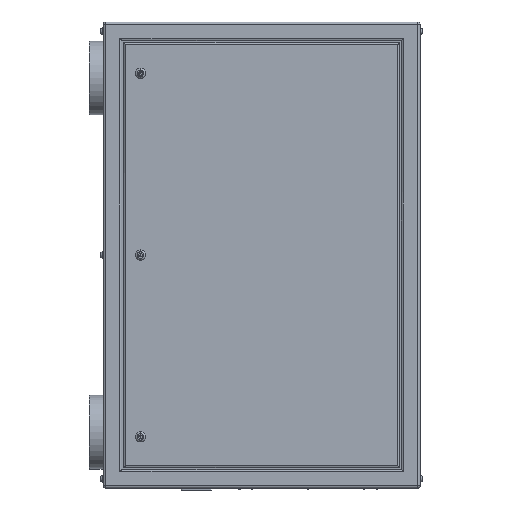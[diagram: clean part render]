
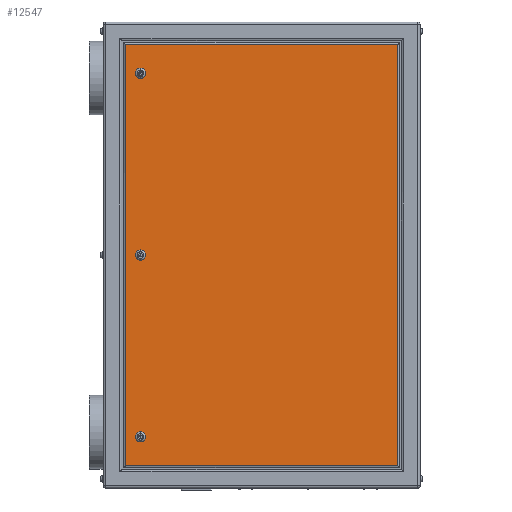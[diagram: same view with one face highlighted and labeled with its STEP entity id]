
A CAD part, left-side view. The second image highlights one B-rep face of the part: STEP entity #12547.
In plain terms, the highlighted planar face has unit normal (-1, 0, 0).
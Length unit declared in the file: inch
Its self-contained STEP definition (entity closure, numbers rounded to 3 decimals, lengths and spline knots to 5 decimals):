
#62 = LINE ( 'NONE', #7802, #7834 ) ;
#312 = VERTEX_POINT ( 'NONE', #8513 ) ;
#536 = FACE_OUTER_BOUND ( 'NONE', #1737, .T. ) ;
#588 = VERTEX_POINT ( 'NONE', #9516 ) ;
#682 = CARTESIAN_POINT ( 'NONE',  ( -11., -14.6, -25. ) ) ;
#845 = DIRECTION ( 'NONE',  ( 1., 0., 0. ) ) ;
#1060 = DIRECTION ( 'NONE',  ( 0., -1., 0. ) ) ;
#1482 = EDGE_LOOP ( 'NONE', ( #8306, #14689 ) ) ;
#1547 = CARTESIAN_POINT ( 'NONE',  ( -11., 13., 19.5 ) ) ;
#1733 = FACE_BOUND ( 'NONE', #1482, .T. ) ;
#1737 = EDGE_LOOP ( 'NONE', ( #7485, #11256, #9665, #10855 ) ) ;
#1796 = DIRECTION ( 'NONE',  ( 0., 0., -1. ) ) ;
#1831 = DIRECTION ( 'NONE',  ( 1., 0., 0. ) ) ;
#2063 = AXIS2_PLACEMENT_3D ( 'NONE', #14708, #1831, #5832 ) ;
#2096 = CARTESIAN_POINT ( 'NONE',  ( -11., 13., -0.55 ) ) ;
#2139 = EDGE_CURVE ( 'NONE', #312, #3194, #14023, .T. ) ;
#2172 = CARTESIAN_POINT ( 'NONE',  ( -11., 13., -19.5 ) ) ;
#2325 = EDGE_CURVE ( 'NONE', #8875, #16209, #7468, .T. ) ;
#2356 = LINE ( 'NONE', #13040, #14224 ) ;
#2521 = DIRECTION ( 'NONE',  ( 1., 0., 0. ) ) ;
#2624 = CARTESIAN_POINT ( 'NONE',  ( -11., 14.6, 22.6 ) ) ;
#2770 = CARTESIAN_POINT ( 'NONE',  ( -11., 13., -20.05 ) ) ;
#3130 = EDGE_LOOP ( 'NONE', ( #10386, #6784 ) ) ;
#3189 = VECTOR ( 'NONE', #4633, 39.37008 ) ;
#3194 = VERTEX_POINT ( 'NONE', #14107 ) ;
#3479 = DIRECTION ( 'NONE',  ( 0., 0., -1. ) ) ;
#3491 = LINE ( 'NONE', #7527, #3189 ) ;
#3642 = CARTESIAN_POINT ( 'NONE',  ( -11., -14.6, -22.6 ) ) ;
#4185 = AXIS2_PLACEMENT_3D ( 'NONE', #14061, #845, #1796 ) ;
#4250 = CARTESIAN_POINT ( 'NONE',  ( -11., -14.6, 22.6 ) ) ;
#4259 = FACE_BOUND ( 'NONE', #3130, .T. ) ;
#4633 = DIRECTION ( 'NONE',  ( 0., 1., 0. ) ) ;
#4784 = EDGE_CURVE ( 'NONE', #16209, #6886, #3491, .T. ) ;
#5337 = DIRECTION ( 'NONE',  ( 0., 0., -1. ) ) ;
#5832 = DIRECTION ( 'NONE',  ( 0., 0., -1. ) ) ;
#6542 = AXIS2_PLACEMENT_3D ( 'NONE', #1547, #6867, #7828 ) ;
#6720 = ORIENTED_EDGE ( 'NONE', *, *, #9335, .T. ) ;
#6784 = ORIENTED_EDGE ( 'NONE', *, *, #2139, .T. ) ;
#6803 = CARTESIAN_POINT ( 'NONE',  ( -11., 13., 19.5 ) ) ;
#6810 = AXIS2_PLACEMENT_3D ( 'NONE', #14018, #12602, #12683 ) ;
#6867 = DIRECTION ( 'NONE',  ( 1., 0., 0. ) ) ;
#6886 = VERTEX_POINT ( 'NONE', #2624 ) ;
#6972 = DIRECTION ( 'NONE',  ( 1., 0., 0. ) ) ;
#6982 = CARTESIAN_POINT ( 'NONE',  ( -11., 13., 0. ) ) ;
#7144 = AXIS2_PLACEMENT_3D ( 'NONE', #2172, #2521, #3479 ) ;
#7468 = LINE ( 'NONE', #682, #11863 ) ;
#7485 = ORIENTED_EDGE ( 'NONE', *, *, #8043, .T. ) ;
#7517 = CARTESIAN_POINT ( 'NONE',  ( -11., 13., 0.55 ) ) ;
#7527 = CARTESIAN_POINT ( 'NONE',  ( -11., 17., 22.6 ) ) ;
#7802 = CARTESIAN_POINT ( 'NONE',  ( -11., 14.6, -25. ) ) ;
#7828 = DIRECTION ( 'NONE',  ( 0., 0., -1. ) ) ;
#7834 = VECTOR ( 'NONE', #5337, 39.37008 ) ;
#8043 = EDGE_CURVE ( 'NONE', #8554, #8875, #2356, .T. ) ;
#8201 = EDGE_LOOP ( 'NONE', ( #15268, #6720 ) ) ;
#8261 = CARTESIAN_POINT ( 'NONE',  ( -11., 14.6, -22.6 ) ) ;
#8306 = ORIENTED_EDGE ( 'NONE', *, *, #13065, .T. ) ;
#8513 = CARTESIAN_POINT ( 'NONE',  ( -11., 13., 20.05 ) ) ;
#8554 = VERTEX_POINT ( 'NONE', #8261 ) ;
#8768 = DIRECTION ( 'NONE',  ( 0., 0., 1. ) ) ;
#8819 = EDGE_CURVE ( 'NONE', #10444, #14063, #15853, .T. ) ;
#8875 = VERTEX_POINT ( 'NONE', #3642 ) ;
#9335 = EDGE_CURVE ( 'NONE', #14063, #10444, #15308, .T. ) ;
#9516 = CARTESIAN_POINT ( 'NONE',  ( -11., 13., -18.95 ) ) ;
#9567 = CIRCLE ( 'NONE', #6810, 0.55 ) ;
#9665 = ORIENTED_EDGE ( 'NONE', *, *, #4784, .T. ) ;
#10386 = ORIENTED_EDGE ( 'NONE', *, *, #12607, .T. ) ;
#10444 = VERTEX_POINT ( 'NONE', #2096 ) ;
#10855 = ORIENTED_EDGE ( 'NONE', *, *, #15629, .T. ) ;
#11112 = DIRECTION ( 'NONE',  ( 1., 0., 0. ) ) ;
#11256 = ORIENTED_EDGE ( 'NONE', *, *, #2325, .T. ) ;
#11264 = CIRCLE ( 'NONE', #7144, 0.55 ) ;
#11863 = VECTOR ( 'NONE', #8768, 39.37008 ) ;
#12070 = DIRECTION ( 'NONE',  ( 0., 0., -1. ) ) ;
#12077 = DIRECTION ( 'NONE',  ( 0., 0., -1. ) ) ;
#12323 = AXIS2_PLACEMENT_3D ( 'NONE', #6803, #6972, #12070 ) ;
#12477 = AXIS2_PLACEMENT_3D ( 'NONE', #6982, #11112, #12077 ) ;
#12545 = VERTEX_POINT ( 'NONE', #2770 ) ;
#12547 = ADVANCED_FACE ( 'NONE', ( #1733, #16340, #4259, #536 ), #15039, .F. ) ;
#12602 = DIRECTION ( 'NONE',  ( 1., 0., 0. ) ) ;
#12607 = EDGE_CURVE ( 'NONE', #3194, #312, #15697, .T. ) ;
#12683 = DIRECTION ( 'NONE',  ( 0., 0., -1. ) ) ;
#13040 = CARTESIAN_POINT ( 'NONE',  ( -11., 17., -22.6 ) ) ;
#13065 = EDGE_CURVE ( 'NONE', #12545, #588, #9567, .T. ) ;
#14018 = CARTESIAN_POINT ( 'NONE',  ( -11., 13., -19.5 ) ) ;
#14023 = CIRCLE ( 'NONE', #6542, 0.55 ) ;
#14029 = EDGE_CURVE ( 'NONE', #588, #12545, #11264, .T. ) ;
#14061 = CARTESIAN_POINT ( 'NONE',  ( -11., 13., 0. ) ) ;
#14063 = VERTEX_POINT ( 'NONE', #7517 ) ;
#14107 = CARTESIAN_POINT ( 'NONE',  ( -11., 13., 18.95 ) ) ;
#14224 = VECTOR ( 'NONE', #1060, 39.37008 ) ;
#14689 = ORIENTED_EDGE ( 'NONE', *, *, #14029, .T. ) ;
#14708 = CARTESIAN_POINT ( 'NONE',  ( -11., 17., -25. ) ) ;
#15039 = PLANE ( 'NONE',  #2063 ) ;
#15268 = ORIENTED_EDGE ( 'NONE', *, *, #8819, .T. ) ;
#15308 = CIRCLE ( 'NONE', #4185, 0.55 ) ;
#15629 = EDGE_CURVE ( 'NONE', #6886, #8554, #62, .T. ) ;
#15697 = CIRCLE ( 'NONE', #12323, 0.55 ) ;
#15853 = CIRCLE ( 'NONE', #12477, 0.55 ) ;
#16209 = VERTEX_POINT ( 'NONE', #4250 ) ;
#16340 = FACE_BOUND ( 'NONE', #8201, .T. ) ;
